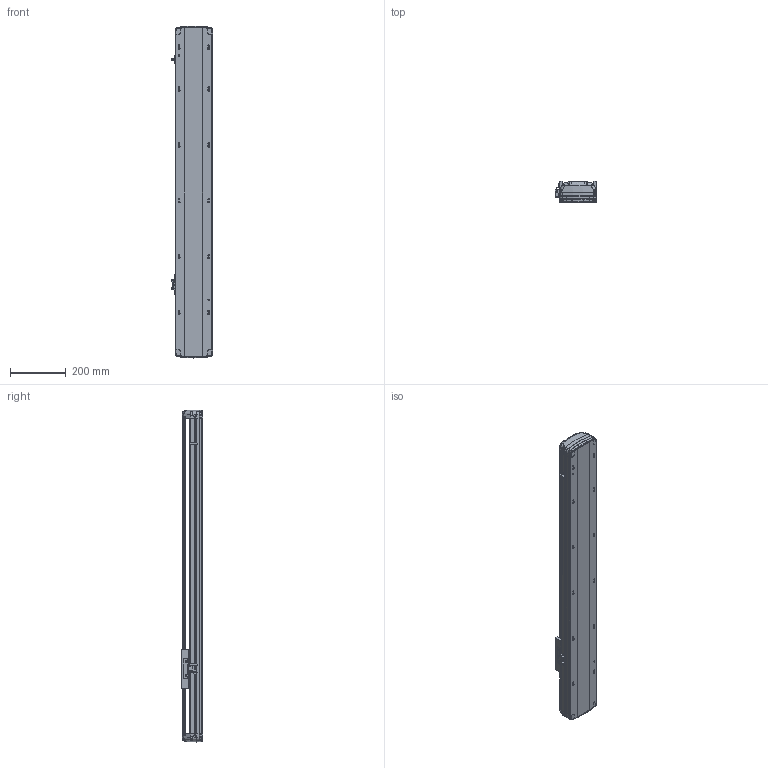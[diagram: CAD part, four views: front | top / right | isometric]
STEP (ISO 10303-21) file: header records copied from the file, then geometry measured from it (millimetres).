
FILE_DESCRIPTION (( 'STEP AP214' ), '1' );
FILE_NAME ('RTH14-XX-800-B-M20-C4.STEP', '2025-10-25T02:22:59', ( 'Microsoft' ), ( 'Microsoft' ), 'SwSTEP 2.0', 'SolidWorks 2018', '' );
FILE_SCHEMA (( 'AUTOMOTIVE_DESIGN' ));
Length unit declared in the file: millimetre
Products named in the file (7): N_RTH13-L-012感应片（外置）^RTH14-XX-XX-B-M20-C4; N_RTH14-R-004-SFSR16賑釱^RTH14-XX-XX-B-M20-C4; N_RTH14-B-007奻裔^RTH14-XX-XX-B-M20-C4; RTH14-XX-800-B-M20-C4; N_OMRON EE-SX672 传感器^RTH14-XX-XX-B-M20-C4; N_RTH14-GY-001P^RTH14-XX-XX-B-M20-C4; N_RTH14-B-011P菁釱^RTH14-XX-XX-B-M20-C4
Assembly tree (9 placements, depth 2):
  RTH14-XX-800-B-M20-C4
    N_RTH14-B-011P菁釱^RTH14-XX-XX-B-M20-C4
    N_RTH14-B-007奻裔^RTH14-XX-XX-B-M20-C4
    N_RTH13-L-012感应片（外置）^RTH14-XX-XX-B-M20-C4
    N_OMRON EE-SX672 传感器^RTH14-XX-XX-B-M20-C4  x3
    N_RTH14-R-004-SFSR16賑釱^RTH14-XX-XX-B-M20-C4
    N_RTH14-GY-001P^RTH14-XX-XX-B-M20-C4  x2
Bounding box: 148.5 x 78.03 x 1188.99 mm (x, y, z)
Volume: 4839227.3 mm3; surface area: 1113814.6 mm2
Topology: 9 solids, 9 shells, 1936 faces, 5458 edges, 3554 vertices
Faces by surface type: plane 983, bspline 450, cylinder 439, cone 56, torus 8
Entity records: 47346 total; most frequent: CARTESIAN_POINT 21030, ORIENTED_EDGE 5932, DIRECTION 4389, EDGE_CURVE 2966, VERTEX_POINT 1940, VECTOR 1661, LINE 1661, AXIS2_PLACEMENT_3D 1364
